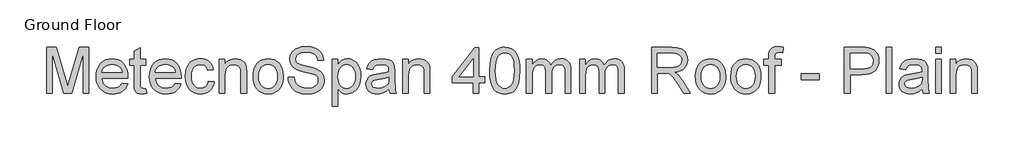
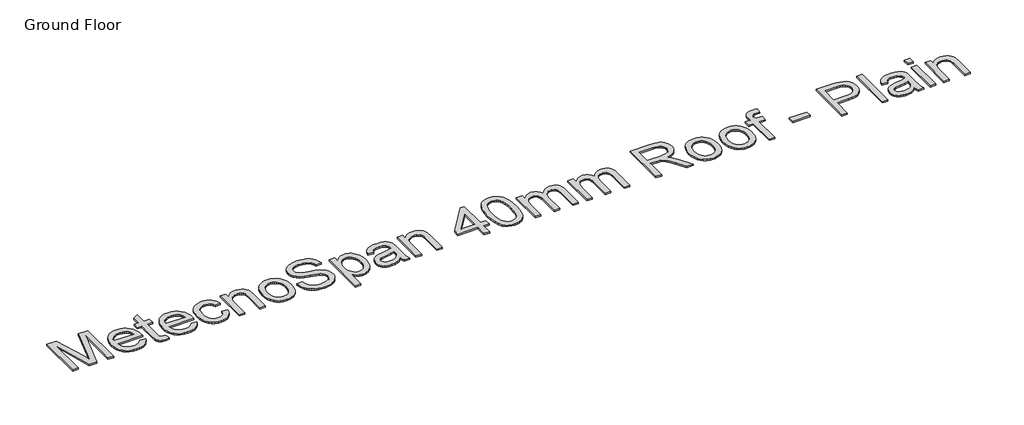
# One storey, part 2 of 14: 1 proxy.
"""IFC4 building model written with IfcOpenShell, lengths in millimetres."""

import ifcopenshell
import ifcopenshell.guid

model = None  # the IFC model being written
_history = None  # IfcOwnerHistory: only IFC2X3 demands one
_inside = {}  # id of a spatial element -> (the spatial element, [elements in it])
_under = {}  # id of a project, library or spatial element -> (it, [spatial elements below it])
_declared = {}  # id of a project -> (the project, [libraries it declares])
_typed = {}  # id of a type object -> (the type object, [elements of that type])
_made_of = {}  # id of a material, layer set ... -> (it, [elements and type objects made of it])


def new_model(schema):
    """Start an empty IFC model of exactly this schema.

    Asked for "IFC4X3", IfcOpenShell would pick the latest addendum, in which some entities
    have other attributes; the version numbers below select the first issue.
    IFC2X3 requires an IfcOwnerHistory on every rooted entity: one is made here for all.
    """
    global model, _history
    if schema == "IFC4X3":
        model = ifcopenshell.file(schema_version=(4, 3, 0, 0))
    else:
        model = ifcopenshell.file(schema=schema)
    _inside.clear()
    _under.clear()
    _declared.clear()
    _typed.clear()
    _made_of.clear()
    _history = None
    if model.schema == "IFC2X3":
        org = make("IfcOrganization", Name="unknown")
        user = make(
            "IfcPersonAndOrganization",
            ThePerson=make("IfcPerson", FamilyName="unknown"),
            TheOrganization=org,
        )
        app = make(
            "IfcApplication",
            ApplicationDeveloper=org,
            Version="unknown",
            ApplicationFullName="unknown",
            ApplicationIdentifier="unknown",
        )
        _history = make(
            "IfcOwnerHistory",
            OwningUser=user,
            OwningApplication=app,
            ChangeAction="ADDED",
            CreationDate=0,
        )
    return model


def make(cls, **values):
    """One entity of the class cls with the attributes given. An attribute that is None is left unset."""
    return model.create_entity(
        cls, **{name: value for name, value in values.items() if value is not None}
    )


def rooted(cls, **values):
    """An entity with a GlobalId (a new one), such as an element, a storey or a relation."""
    return make(cls, GlobalId=ifcopenshell.guid.new(), OwnerHistory=_history, **values)


def si_unit(unit_type, name, prefix=None):
    """IfcSIUnit, for example si_unit("LENGTHUNIT", "METRE", prefix="MILLI")."""
    return make("IfcSIUnit", UnitType=unit_type, Prefix=prefix, Name=name)


def assignment(units):
    """IfcUnitAssignment: the units of a project."""
    return None if units is None else make("IfcUnitAssignment", Units=units)


def point(xyz):
    """IfcCartesianPoint."""
    return None if xyz is None else make("IfcCartesianPoint", Coordinates=xyz)


def direction(xyz):
    """IfcDirection."""
    return None if xyz is None else make("IfcDirection", DirectionRatios=xyz)


def frame(location, z_axis=None, x_axis=None):
    """IfcAxis2Placement3D, a coordinate frame: its origin and axes. An axis left out is left unset."""
    return make(
        "IfcAxis2Placement3D",
        Location=point(location),
        Axis=direction(z_axis),
        RefDirection=direction(x_axis),
    )


def origin():
    """The frame at (0, 0, 0) with its axes left unset."""
    return frame((0.0, 0.0, 0.0))


def origin_with_axes():
    """The frame at (0, 0, 0) with the z axis (0, 0, 1) and the x axis (1, 0, 0) written out."""
    return frame((0.0, 0.0, 0.0), z_axis=(0.0, 0.0, 1.0), x_axis=(1.0, 0.0, 0.0))


def place(relative_to, where):
    """IfcLocalPlacement: puts the frame where relative to a parent placement (None: the world)."""
    return make(
        "IfcLocalPlacement", PlacementRelTo=relative_to, RelativePlacement=where
    )


def context(
    kind, dimensions, precision=None, world=None, true_north=None, identifier=None
):
    """IfcGeometricRepresentationContext, for example the 3D "Model" context."""
    return make(
        "IfcGeometricRepresentationContext",
        ContextIdentifier=identifier,
        ContextType=kind,
        CoordinateSpaceDimension=dimensions,
        Precision=precision,
        WorldCoordinateSystem=world,
        TrueNorth=true_north,
    )


def project(units=None, contexts=None):
    """IfcProject with its units and contexts."""
    return rooted(
        "IfcProject",
        Name="project",
        RepresentationContexts=contexts,
        UnitsInContext=assignment(units),
    )


def spatial(cls, under=None, at=None, **own):
    """A site, building, storey or space (cls), placed at a placement, below another one or the project."""
    s = rooted(cls, ObjectPlacement=at, **own)
    if under is not None:
        _under.setdefault(under.id(), (under, []))[1].append(s)
    return s


def polyline(points):
    """IfcPolyline through the points."""
    return make("IfcPolyline", Points=[point(p) for p in points])


def outline(outer, holes=None, kind="AREA"):
    """IfcArbitraryClosedProfileDef: a profile drawn as a closed curve; with holes, ...WithVoids."""
    if holes is None:
        return make("IfcArbitraryClosedProfileDef", ProfileType=kind, OuterCurve=outer)
    return make(
        "IfcArbitraryProfileDefWithVoids",
        ProfileType=kind,
        OuterCurve=outer,
        InnerCurves=holes,
    )


def extrude(swept, where, along, depth):
    """IfcExtrudedAreaSolid: the profile swept, set in the frame where, extruded along a direction by depth."""
    return make(
        "IfcExtrudedAreaSolid",
        SweptArea=swept,
        Position=where,
        ExtrudedDirection=direction(along),
        Depth=depth,
    )


def shape(context_of_items, identifier, shape_type, items):
    """IfcShapeRepresentation: the items that make up one representation, for example the "Body"."""
    return make(
        "IfcShapeRepresentation",
        ContextOfItems=context_of_items,
        RepresentationIdentifier=identifier,
        RepresentationType=shape_type,
        Items=items,
    )


def made_of(thing, what):
    """Note that an element or type object is made of a material, layer set ...; save() writes the relation."""
    if what is not None:
        _made_of.setdefault(what.id(), (what, []))[1].append(thing)
    return thing


def element(
    cls,
    number,
    at=None,
    inside=None,
    cuts=None,
    type_object=None,
    material=None,
    context=None,
    identifier="Body",
    shape_type=None,
    held_by="IfcProductDefinitionShape",
    body=None,
    shapes=None,
    **own,
):
    """One element of the class cls, such as IfcWall. Its Tag is "e" and its number.

    at: its placement. inside: the storey or other place that contains it. cuts: it is an
    opening in that element (IfcRelVoidsElement). A single representation is given by context,
    identifier, shape_type and body (its items); several are given by shapes. held_by: the class
    of the entity that holds the representations. save() writes the other relations.
    """
    e = rooted(cls, Tag="e%d" % number, ObjectPlacement=at, **own)
    if body is not None:
        shapes = [shape(context, identifier, shape_type, body)]
    if shapes is not None:
        e.Representation = make(held_by, Representations=shapes)
    if inside is not None:
        _inside.setdefault(inside.id(), (inside, []))[1].append(e)
    if cuts is not None:
        rooted(
            "IfcRelVoidsElement", RelatingBuildingElement=cuts, RelatedOpeningElement=e
        )
    if type_object is not None:
        _typed.setdefault(type_object.id(), (type_object, []))[1].append(e)
    return made_of(e, material)


def aggregate(whole, parts):
    """IfcRelAggregates: a whole, such as a stair, and the parts it consists of."""
    return rooted("IfcRelAggregates", RelatingObject=whole, RelatedObjects=parts)


def save(model, path):
    """Write the relations noted so far, then the file.

    IfcRelAggregates (storeys below a building ...), IfcRelContainedInSpatialStructure (elements
    in a storey), IfcRelDefinesByType, IfcRelAssociatesMaterial and IfcRelDeclares: one each for
    every whole, place, type object, material and project.
    """
    for whole, parts in _under.values():
        aggregate(whole, parts)
    for where, things in _inside.values():
        rooted(
            "IfcRelContainedInSpatialStructure",
            RelatedElements=things,
            RelatingStructure=where,
        )
    for kind, things in _typed.values():
        rooted("IfcRelDefinesByType", RelatedObjects=things, RelatingType=kind)
    for what, things in _made_of.values():
        rooted("IfcRelAssociatesMaterial", RelatedObjects=things, RelatingMaterial=what)
    for by, libraries in _declared.values():
        rooted("IfcRelDeclares", RelatingContext=by, RelatedDefinitions=libraries)
    model.write(path)


model = new_model("IFC4")

# Units and contexts
model_context = context("Model", 3, world=origin())
ifc_project = project(units=[si_unit("LENGTHUNIT", "METRE", prefix="MILLI")], contexts=[model_context])

# Site, building, storey
site = spatial("IfcSite", under=ifc_project)
building = spatial("IfcBuilding", under=site)
storey = spatial("IfcBuildingStorey", under=building, Name="Ground Floor", Elevation=0.0)

# Proxy
placement = place(None, origin())
element("IfcBuildingElementProxy", 1, Name="600mm Arial", ObjectType="600mm Arial", at=placement, inside=storey, context=model_context, shape_type="SweptSolid", body=[
    extrude(outline(polyline([(-20586.6111679, -15259.7789852), (-20586.6111679, -14657.0411243), (-20456.9695528, -14657.0411243), (-20333.655508, -15081.8712524), (-20308.7866852, -15170.6043896), (-20281.8577231, -15074.5136125), (-20160.6038175, -14657.0411243), (-20030.9622024, -14657.0411243), (-20030.9622024, -15259.7789852), (-20106.304435, -15259.7789852), (-20106.304435, -14732.3833569), (-20257.7246642, -15259.7789852), (-20359.8487061, -15259.7789852), (-20511.2689353, -14732.3833569), (-20511.2689353, -15259.7789852), (-20586.6111679, -15259.7789852)])), origin_with_axes(), (0.0, 0.0, 1.0), 20.0),
    extrude(outline(polyline([(-19598.6272817, -15127.9300782), (-19524.756577, -15137.3478572), (-19536.082744, -15166.9347667), (-19551.3728394, -15193.0084031), (-19570.6268633, -15215.5687665), (-19593.8448157, -15234.6158568), (-19620.7875733, -15249.7450038), (-19651.2160129, -15260.5515374), (-19685.1301343, -15267.0354576), (-19722.5299376, -15269.1967643), (-19769.2785422, -15265.4673606), (-19810.9319811, -15254.2791494), (-19847.4902544, -15235.6321308), (-19878.953362, -15209.5263047), (-19904.2544462, -15176.6882381), (-19922.3266492, -15137.8444979), (-19933.169971, -15092.9950842), (-19936.7844116, -15042.1399969), (-19933.1331828, -14989.5604627), (-19922.1794964, -14943.2165284), (-19903.9233524, -14903.1081939), (-19878.3647508, -14869.2354592), (-19846.9844166, -14842.3248912), (-19811.2630749, -14823.103057), (-19771.2007256, -14811.5699564), (-19726.7973688, -14807.7255896), (-19683.8241532, -14811.5607594), (-19644.962019, -14823.0662688), (-19610.210966, -14842.2421178), (-19579.5709943, -14869.0883064), (-19554.5596172, -14902.8874647), (-19536.6943478, -14942.9222228), (-19525.9751861, -14989.1925807), (-19522.4021323, -15041.6985385), (-19522.8435907, -15062.0056246), (-19861.442179, -15062.0056246), (-19857.0781789, -15092.0707807), (-19848.4007623, -15118.4019345), (-19835.4099293, -15140.999086), (-19818.10568, -15159.8622353), (-19797.4445074, -15174.733865), (-19774.3829049, -15185.3564576), (-19748.9208723, -15191.7300132), (-19721.0584097, -15193.8545317), (-19680.9592722, -15189.9181943), (-19647.187705, -15178.1091823), (-19619.7437082, -15157.6917316), (-19598.6272817, -15127.9300782)]), holes=[polyline([(-19861.442179, -14986.663392), (-19597.7443649, -14986.663392), (-19607.9346961, -14946.8585601), (-19616.6994847, -14931.2051812), (-19627.9106885, -14918.3844937), (-19648.4568979, -14902.9334499), (-19671.8357987, -14891.8969901), (-19698.0473909, -14885.2751141), (-19727.0916744, -14883.0678222), (-19753.5837766, -14884.8290572), (-19777.8777838, -14890.1127624), (-19799.9736962, -14898.9189376), (-19819.8715136, -14911.247583), (-19836.5687576, -14926.5284814), (-19849.0629499, -14944.1914157), (-19857.3540903, -14964.2363859), (-19861.442179, -14986.663392)])]), origin_with_axes(), (0.0, 0.0, 1.0), 20.0),
    extrude(outline(polyline([(-19286.9576554, -15196.9447405), (-19277.5398763, -15261.9862772), (-19333.8993979, -15269.1967643), (-19370.0621981, -15266.0697674), (-19397.0279483, -15256.6887765), (-19416.0842357, -15242.2310141), (-19428.5186471, -15223.8737025), (-19435.3612522, -15192.3462155), (-19437.6421206, -15138.3779268), (-19437.6421206, -14892.4856012), (-19494.148795, -14892.4856012), (-19494.148795, -14817.1433686), (-19437.6421206, -14817.1433686), (-19437.6421206, -14709.5746732), (-19362.299888, -14665.281681), (-19362.299888, -14817.1433686), (-19286.9576554, -14817.1433686), (-19286.9576554, -14892.4856012), (-19362.299888, -14892.4856012), (-19362.299888, -15136.1706349), (-19358.3267624, -15175.0189735), (-19345.4508926, -15188.7777602), (-19334.5799796, -15192.5853388), (-19319.7727293, -15193.8545317), (-19286.9576554, -15196.9447405)])), origin_with_axes(), (0.0, 0.0, 1.0), 20.0),
    extrude(outline(polyline([(-18901.71163, -15127.9300782), (-18827.8409254, -15137.3478572), (-18839.1670923, -15166.9347667), (-18854.4571877, -15193.0084031), (-18873.7112116, -15215.5687665), (-18896.9291641, -15234.6158568), (-18923.8719217, -15249.7450038), (-18954.3003612, -15260.5515374), (-18988.2144826, -15267.0354576), (-19025.614286, -15269.1967643), (-19072.3628905, -15265.4673606), (-19114.0163294, -15254.2791494), (-19150.5746027, -15235.6321308), (-19182.0377103, -15209.5263047), (-19207.3387945, -15176.6882381), (-19225.4109976, -15137.8444979), (-19236.2543194, -15092.9950842), (-19239.86876, -15042.1399969), (-19236.2175312, -14989.5604627), (-19225.2638448, -14943.2165284), (-19207.0077007, -14903.1081939), (-19181.4490991, -14869.2354592), (-19150.0687649, -14842.3248912), (-19114.3474232, -14823.103057), (-19074.2850739, -14811.5699564), (-19029.8817171, -14807.7255896), (-18986.9085016, -14811.5607594), (-18948.0463673, -14823.0662688), (-18913.2953143, -14842.2421178), (-18882.6553427, -14869.0883064), (-18857.6439655, -14902.8874647), (-18839.7786961, -14942.9222228), (-18829.0595345, -14989.1925807), (-18825.4864806, -15041.6985385), (-18825.927939, -15062.0056246), (-19164.5265274, -15062.0056246), (-19160.1625272, -15092.0707807), (-19151.4851106, -15118.4019345), (-19138.4942777, -15140.999086), (-19121.1900283, -15159.8622353), (-19100.5288558, -15174.733865), (-19077.4672532, -15185.3564576), (-19052.0052206, -15191.7300132), (-19024.142758, -15193.8545317), (-18984.0436205, -15189.9181943), (-18950.2720534, -15178.1091823), (-18922.8280565, -15157.6917316), (-18901.71163, -15127.9300782)]), holes=[polyline([(-19164.5265274, -14986.663392), (-18900.8287132, -14986.663392), (-18911.0190445, -14946.8585601), (-18919.783833, -14931.2051812), (-18930.9950368, -14918.3844937), (-18951.5412462, -14902.9334499), (-18974.920147, -14891.8969901), (-19001.1317392, -14885.2751141), (-19030.1760227, -14883.0678222), (-19056.6681249, -14884.8290572), (-19080.9621322, -14890.1127624), (-19103.0580445, -14898.9189376), (-19122.9558619, -14911.247583), (-19139.653106, -14926.5284814), (-19152.1472982, -14944.1914157), (-19160.4384387, -14964.2363859), (-19164.5265274, -14986.663392)])]), origin_with_axes(), (0.0, 0.0, 1.0), 20.0),
    extrude(outline(polyline([(-18467.6108757, -15099.6767409), (-18392.2686431, -15109.09452), (-18400.4632145, -15144.6457163), (-18413.274705, -15176.1042254), (-18430.7031145, -15203.4700473), (-18452.7484431, -15226.7431821), (-18478.4817887, -15245.3166243), (-18506.9742492, -15258.5833687), (-18538.2258247, -15266.5434154), (-18572.2365151, -15269.1967643), (-18614.4923608, -15265.4949517), (-18652.3796078, -15254.389514), (-18685.8982561, -15235.8804511), (-18715.0483056, -15209.9677631), (-18738.6433371, -15177.1388935), (-18755.496931, -15137.8812861), (-18765.6090874, -15092.1949409), (-18768.9798061, -15040.0798577), (-18763.2224529, -14973.0333641), (-18756.0257614, -14942.862442), (-18745.9503932, -14914.926403), (-18732.9273706, -14889.7862671), (-18716.8877156, -14868.0030545), (-18697.8314283, -14849.576765), (-18675.7585086, -14834.5073988), (-18651.6668364, -14822.7903573), (-18626.5542917, -14814.4210419), (-18600.4208745, -14809.3994526), (-18573.2665847, -14807.7255896), (-18539.8399069, -14810.024852), (-18509.6046054, -14816.9226394), (-18482.5606803, -14828.4189518), (-18458.7081314, -14844.5137891), (-18438.4516291, -14864.8392693), (-18422.1958434, -14889.0275105), (-18409.9407744, -14917.0785126), (-18401.6864222, -14948.9922757), (-18477.0286548, -14958.4100548), (-18490.6954709, -14925.5397985), (-18511.9774443, -14901.9769567), (-18539.6973526, -14887.7951058), (-18572.6779735, -14883.0678222), (-18598.2779619, -14885.3946758), (-18621.3671556, -14892.3752367), (-18641.9455547, -14904.0095047), (-18660.0131592, -14920.2974801), (-18674.7238405, -14941.6162417), (-18685.2314699, -14968.3428687), (-18691.5360476, -15000.4773609), (-18693.6375735, -15038.0197185), (-18691.5820329, -15076.1276947), (-18685.4154109, -15108.6346675), (-18675.1377077, -15135.5406369), (-18660.7489232, -15156.845603), (-18643.0400036, -15173.0370093), (-18622.8018954, -15184.6022995), (-18600.0345984, -15191.5414737), (-18574.7381127, -15193.8545317), (-18535.7242271, -15188.0787844), (-18518.8522391, -15180.8591002), (-18503.7368876, -15170.7515424), (-18490.801237, -15157.6457463), (-18480.4683514, -15141.4313474), (-18472.738231, -15122.1083456), (-18467.6108757, -15099.6767409)])), origin_with_axes(), (0.0, 0.0, 1.0), 20.0),
    extrude(outline(polyline([(-18326.3441895, -15259.7789852), (-18326.3441895, -14817.1433686), (-18251.0019569, -14817.1433686), (-18251.0019569, -14878.9475438), (-18224.827153, -14847.7879388), (-18193.3916365, -14825.5310781), (-18156.6954075, -14812.1769617), (-18114.7384659, -14807.7255896), (-18077.6007785, -14811.312439), (-18043.5900881, -14822.0729874), (-18015.2263862, -14838.6644654), (-17995.0296647, -14859.7441037), (-17981.3260604, -14885.25672), (-17972.4417102, -14915.1471322), (-17968.4685846, -14987.9877672), (-17968.4685846, -15259.7789852), (-18043.8108173, -15259.7789852), (-18043.8108173, -14998.1413103), (-18045.981321, -14959.182607), (-18052.4928323, -14931.4810927), (-18064.5041795, -14911.6338591), (-18083.1741907, -14896.2379976), (-18107.1049145, -14886.360366), (-18134.8983993, -14883.0678222), (-18157.7760608, -14884.9164292), (-18179.0258446, -14890.4622503), (-18198.6477505, -14899.7052854), (-18216.6417786, -14912.6455346), (-18231.6743566, -14930.7545258), (-18242.4119123, -14955.503787), (-18248.8544458, -14986.8933183), (-18251.0019569, -15024.9231195), (-18251.0019569, -15259.7789852), (-18326.3441895, -15259.7789852)])), origin_with_axes(), (0.0, 0.0, 1.0), 20.0),
    extrude(outline(polyline([(-17883.7085729, -15038.4611769), (-17879.6342799, -14981.135965), (-17867.4114006, -14931.7386101), (-17847.0399351, -14890.2691122), (-17818.5198834, -14856.7274713), (-17789.8066937, -14835.289148), (-17758.1136598, -14819.97606), (-17723.4407818, -14810.7882072), (-17685.7880595, -14807.7255896), (-17644.2219926, -14811.4549933), (-17606.6382483, -14822.6432045), (-17573.0368265, -14841.2902231), (-17543.4177274, -14867.3960492), (-17519.2432818, -14900.0777659), (-17501.9758207, -14938.4524565), (-17491.615344, -14982.520121), (-17488.1618517, -15032.2807594), (-17489.688562, -15072.6098231), (-17494.2686929, -15108.3955442), (-17501.9022443, -15139.6379227), (-17512.5892162, -15166.3369585), (-17526.1962515, -15189.398561), (-17542.5899929, -15209.7286398), (-17561.7704404, -15227.3271947), (-17583.7375941, -15242.1942259), (-17607.6361282, -15254.0078364), (-17632.6107171, -15262.4461297), (-17658.6613609, -15267.5091057), (-17685.7880595, -15269.1967643), (-17727.9611318, -15265.4811562), (-17765.894364, -15254.3343317), (-17799.5877562, -15235.7562909), (-17829.0413085, -15209.7470339), (-17852.9582367, -15176.7480189), (-17870.0417568, -15137.2007044), (-17880.2918689, -15091.1050904), (-17883.7085729, -15038.4611769)]), holes=[polyline([(-17808.3663403, -15038.3140241), (-17806.1866395, -15074.8585018), (-17799.6475371, -15106.5009519), (-17788.7490329, -15133.2413745), (-17773.4911272, -15155.0797694), (-17754.9314805, -15172.0437279), (-17734.1277537, -15184.1608411), (-17711.0799467, -15191.4311091), (-17685.7880595, -15193.8545317), (-17660.6249311, -15191.4173135), (-17637.6690946, -15184.1056588), (-17616.92055, -15171.9195677), (-17598.3792975, -15154.8590402), (-17583.1213917, -15132.8045146), (-17572.2228876, -15105.6364293), (-17565.6837852, -15073.3547842), (-17563.5040843, -15035.9595794), (-17565.6975807, -15000.57393), (-17572.2780699, -14969.7592143), (-17583.2455519, -14943.5154325), (-17598.6000267, -14921.8425845), (-17617.2102571, -14904.878626), (-17637.9450061, -14892.7615127), (-17660.8042735, -14885.4912448), (-17685.7880595, -14883.0678222), (-17711.0799467, -14885.4820478), (-17734.1277537, -14892.7247245), (-17754.9314805, -14904.7958525), (-17773.4911272, -14921.6954317), (-17788.7490329, -14943.4694473), (-17799.6475371, -14970.1638845), (-17806.1866395, -15001.7787435), (-17808.3663403, -15038.3140241)])]), origin_with_axes(), (0.0, 0.0, 1.0), 20.0),
    extrude(outline(polyline([(-17422.2373982, -15052.5878455), (-17346.8951656, -15052.5878455), (-17338.2499387, -15094.3976343), (-17322.6149539, -15128.0036546), (-17298.2243776, -15154.6750992), (-17263.3123763, -15175.6811611), (-17220.6380648, -15189.3111891), (-17172.9605583, -15193.8545317), (-17130.9852226, -15190.414835), (-17094.2338113, -15180.0957451), (-17064.4537638, -15163.7617845), (-17043.3925196, -15142.277476), (-17030.8661376, -15117.6109882), (-17026.690677, -15091.7304898), (-17029.8176739, -15066.5121791), (-17039.1986648, -15044.7151709), (-17058.2549522, -15026.118736), (-17090.4078385, -15010.5021453), (-17200.1102495, -14981.7337733), (-17272.1231501, -14962.69588), (-17318.20037, -14944.5776918), (-17355.7059394, -14919.2306223), (-17382.2854135, -14888.5124757), (-17398.1227334, -14853.0854396), (-17403.40184, -14813.6117015), (-17401.7693637, -14791.1754983), (-17396.8719346, -14769.4842562), (-17388.7095529, -14748.5379751), (-17377.2822184, -14728.336655), (-17362.7186899, -14709.7034319), (-17345.1477261, -14693.4614419), (-17324.569327, -14679.6106847), (-17300.9834926, -14668.1511606), (-17247.9716971, -14652.7552991), (-17189.2945189, -14647.6233453), (-17125.7245101, -14652.9944224), (-17070.1007524, -14669.1076538), (-17045.7653584, -14681.1098039), (-17024.4098086, -14695.6319456), (-17006.034103, -14712.6740791), (-16990.6382415, -14732.2362041), (-16978.3417858, -14753.7481038), (-16969.2642975, -14776.639561), (-16963.4057768, -14800.9105756), (-16960.7662234, -14826.5611477), (-17036.1084561, -14826.5611477), (-17041.1484394, -14802.5200593), (-17049.9408191, -14781.6059679), (-17062.4855951, -14763.8188734), (-17078.7827675, -14749.1587759), (-17099.1358389, -14737.6992518), (-17123.8483119, -14729.5138774), (-17152.9201866, -14724.6026527), (-17186.3514629, -14722.9655779), (-17220.849597, -14724.5842587), (-17250.3261419, -14729.440301), (-17274.7810975, -14737.5337049), (-17294.2144639, -14748.8644703), (-17309.0217142, -14762.4853012), (-17319.5983215, -14777.4489014), (-17325.944286, -14793.7552708), (-17328.0596074, -14811.4044095), (-17326.5604883, -14826.5887389), (-17322.0631309, -14840.3567225), (-17314.5675353, -14852.7083605), (-17304.0737013, -14863.6436528), (-17287.5557998, -14873.999531), (-17261.5465427, -14884.4657738), (-17181.0539622, -14905.7293531), (-17097.9862077, -14925.9260746), (-17047.7335271, -14943.5476222), (-17004.7833042, -14970.8812544), (-16988.1780306, -14986.9485006), (-16974.8193157, -15004.6160334), (-16964.5508095, -15023.7918824), (-16957.2161622, -15044.3840771), (-16951.3484444, -15089.8175035), (-16953.036103, -15113.3849438), (-16958.099079, -15136.2626054), (-16966.5373722, -15158.4504882), (-16978.3509828, -15179.9485923), (-16993.3329771, -15199.9245846), (-17011.2764214, -15217.5461322), (-17032.1813158, -15232.813235), (-17056.0476602, -15245.725893), (-17082.1810774, -15255.9943992), (-17109.8871902, -15263.3290465), (-17170.0175023, -15269.1967643), (-17208.5577398, -15267.6148717), (-17243.8330246, -15262.869194), (-17275.8433567, -15254.9597311), (-17304.5887361, -15243.886483), (-17330.2439068, -15229.6310557), (-17352.9836126, -15212.1750551), (-17372.8078536, -15191.518481), (-17389.7166298, -15167.6613336), (-17403.3374607, -15141.3761651), (-17413.2978657, -15113.4355276), (-17419.5978449, -15083.839421), (-17422.2373982, -15052.5878455)])), origin_with_axes(), (0.0, 0.0, 1.0), 20.0),
    extrude(outline(polyline([(-16847.7528745, -15429.2990086), (-16847.7528745, -14817.1433686), (-16772.4106419, -14817.1433686), (-16772.4106419, -14891.0140733), (-16747.8361246, -14854.5753616), (-16720.3185514, -14828.5477105), (-16688.2392414, -14812.9311198), (-16649.9795139, -14807.7255896), (-16623.7035424, -14809.5466054), (-16599.0278576, -14815.0096531), (-16575.9524594, -14824.1147324), (-16554.477348, -14836.8618436), (-16535.0715727, -14852.9198927), (-16518.2041833, -14871.9577859), (-16503.8751795, -14893.9755233), (-16492.0845616, -14918.9731049), (-16476.302424, -14974.486498), (-16471.0417115, -15035.0766626), (-16476.9830057, -15099.511194), (-16484.4096235, -15129.1762784), (-16494.8068884, -15157.1399086), (-16508.0322461, -15182.670919), (-16523.9431424, -15205.0381444), (-16542.5395772, -15224.2415845), (-16563.8215507, -15240.2812395), (-16586.7451975, -15252.9317816), (-16610.2666525, -15261.9678831), (-16634.3859159, -15267.389544), (-16659.1029874, -15269.1967643), (-16693.7390773, -15264.3591161), (-16724.6595589, -15249.8461714), (-16751.1286685, -15227.9387986), (-16772.4106419, -15200.917866), (-16772.4106419, -15429.2990086), (-16847.7528745, -15429.2990086)]), holes=[polyline([(-16772.4106419, -15041.9928441), (-16770.3734954, -15078.302797), (-16764.2620557, -15109.5359784), (-16754.076323, -15135.6923883), (-16739.8162971, -15156.7720266), (-16722.6500035, -15172.9956226), (-16703.7454675, -15184.5839054), (-16683.1026891, -15191.5368751), (-16660.7216682, -15193.8545317), (-16638.0187506, -15191.4541017), (-16616.9988931, -15184.2528116), (-16597.6620957, -15172.2506615), (-16580.0083584, -15155.4476514), (-16565.2976772, -15133.6046579), (-16554.7900477, -15106.4825578), (-16548.48547, -15074.0813511), (-16546.3839441, -15036.4010378), (-16548.4348862, -15000.4037845), (-16554.5877126, -14969.2257854), (-16564.8424232, -14942.8670405), (-16579.1990181, -14921.3275497), (-16596.4066984, -14904.5889189), (-16615.2146654, -14892.632754), (-16635.6229191, -14885.4590551), (-16657.6314594, -14883.0678222), (-16679.5710219, -14885.6108065), (-16700.2138004, -14893.2397593), (-16719.5597948, -14905.9546808), (-16737.6090052, -14923.7555708), (-16752.8347213, -14946.4033062), (-16763.7102327, -14973.6587635), (-16770.2355396, -15005.5219428), (-16772.4106419, -15041.9928441)])]), origin_with_axes(), (0.0, 0.0, 1.0), 20.0),
    extrude(outline(polyline([(-16103.7483275, -15203.2723108), (-16139.7455807, -15234.1376102), (-16176.8096917, -15254.3343317), (-16215.7867891, -15265.4811562), (-16257.5230015, -15269.1967643), (-16291.0692409, -15266.9618812), (-16320.4860049, -15260.2572318), (-16345.7732936, -15249.0828162), (-16366.9311068, -15233.4386344), (-16383.6375479, -15214.3179677), (-16395.5707202, -15192.7140975), (-16402.7306235, -15168.6270239), (-16405.1172579, -15142.0567468), (-16401.5120144, -15110.8235654), (-16390.6962837, -15082.4598636), (-16374.0128352, -15058.1796519), (-16352.8044382, -15039.1969409), (-16327.880433, -15024.8495431), (-16300.0501601, -15014.4752708), (-16234.8614706, -15003.1445054), (-16157.8269808, -14991.2251288), (-16104.1897859, -14977.2456129), (-16103.7483275, -14960.470194), (-16108.9354636, -14926.8457796), (-16115.4193838, -14914.3929741), (-16124.496872, -14904.8464363), (-16140.1870391, -14895.3182926), (-16159.2985088, -14888.5124757), (-16207.7853557, -14883.0678222), (-16252.6669591, -14886.6914598), (-16284.0105051, -14897.5623728), (-16305.384449, -14917.6671238), (-16320.3572462, -14948.9922757), (-16395.6994789, -14939.5744966), (-16382.6212739, -14898.3717132), (-16363.1051341, -14865.9980976), (-16335.3300434, -14841.2396393), (-16297.4749861, -14822.8823278), (-16251.1770371, -14811.5147741), (-16198.073271, -14807.7255896), (-16147.1400088, -14811.0733157), (-16106.7649598, -14821.1164942), (-16076.3227247, -14836.2180501), (-16055.1879041, -14854.7409085), (-16041.1716001, -14877.6415627), (-16032.0849148, -14905.8765059), (-16028.4060949, -14971.8009594), (-16028.4060949, -15065.5372918), (-16024.5801221, -15196.4297057), (-16018.9147394, -15228.7849271), (-16009.5705367, -15259.7789852), (-16084.9127693, -15259.7789852), (-16096.9792988, -15233.5857872), (-16103.7483275, -15203.2723108)]), holes=[polyline([(-16103.7483275, -15052.5878455), (-16154.36889, -15065.1326216), (-16225.2965387, -15075.6908348), (-16290.1173462, -15087.9045171), (-16306.9847357, -15096.2554384), (-16319.4743295, -15107.7701448), (-16327.1998514, -15121.5657196), (-16329.7750253, -15136.759246), (-16324.1648249, -15159.1632596), (-16307.3342236, -15177.5205711), (-16279.6511035, -15189.7710416), (-16241.4833465, -15193.8545317), (-16201.016327, -15189.3479773), (-16165.2581971, -15175.8283139), (-16136.2690959, -15155.9075039), (-16116.1091625, -15132.1975093), (-16107.16963, -15107.7701448), (-16104.1897859, -15073.9250013), (-16103.7483275, -15052.5878455)])]), origin_with_axes(), (0.0, 0.0, 1.0), 20.0),
    extrude(outline(polyline([(-15924.810525, -15259.7789852), (-15924.810525, -14817.1433686), (-15849.4682924, -14817.1433686), (-15849.4682924, -14878.9475438), (-15823.2934885, -14847.7879388), (-15791.857972, -14825.5310781), (-15755.161743, -14812.1769617), (-15713.2048014, -14807.7255896), (-15676.067114, -14811.312439), (-15642.0564235, -14822.0729874), (-15613.6927217, -14838.6644654), (-15593.4960002, -14859.7441037), (-15579.7923959, -14885.25672), (-15570.9080457, -14915.1471322), (-15566.9349201, -14987.9877672), (-15566.9349201, -15259.7789852), (-15642.2771527, -15259.7789852), (-15642.2771527, -14998.1413103), (-15644.4476565, -14959.182607), (-15650.9591678, -14931.4810927), (-15662.970515, -14911.6338591), (-15681.6405262, -14896.2379976), (-15705.57125, -14886.360366), (-15733.3647347, -14883.0678222), (-15756.2423963, -14884.9164292), (-15777.4921801, -14890.4622503), (-15797.114086, -14899.7052854), (-15815.1081141, -14912.6455346), (-15830.1406921, -14930.7545258), (-15840.8782478, -14955.503787), (-15847.3207813, -14986.8933183), (-15849.4682924, -15024.9231195), (-15849.4682924, -15259.7789852), (-15924.810525, -15259.7789852)])), origin_with_axes(), (0.0, 0.0, 1.0), 20.0),
    extrude(outline(polyline([(-15001.8681755, -15259.7789852), (-15001.8681755, -15118.5122991), (-15274.9837688, -15118.5122991), (-15274.9837688, -15043.1700665), (-14983.0326174, -14666.4589034), (-14926.5259429, -14666.4589034), (-14926.5259429, -15043.1700665), (-14851.1837103, -15043.1700665), (-14851.1837103, -15118.5122991), (-14926.5259429, -15118.5122991), (-14926.5259429, -15259.7789852), (-15001.8681755, -15259.7789852)]), holes=[polyline([(-15001.8681755, -15043.1700665), (-15001.8681755, -14810.3743399), (-15182.277506, -15043.1700665), (-15001.8681755, -15043.1700665)])]), origin_with_axes(), (0.0, 0.0, 1.0), 20.0),
    extrude(outline(polyline([(-14785.2592568, -14963.2660971), (-14779.7226327, -14866.7890439), (-14772.8018527, -14825.8759675), (-14763.1127607, -14789.8465246), (-14750.6967433, -14758.4064096), (-14735.5951874, -14731.2613169), (-14717.808093, -14708.4112464), (-14697.3354599, -14689.8561983), (-14674.1083105, -14675.4996034), (-14648.0576667, -14665.2448928), (-14619.1835286, -14659.0920665), (-14587.4858962, -14657.0411243), (-14541.0591884, -14661.8971667), (-14499.4885229, -14676.4652937), (-14464.7236744, -14700.1752883), (-14438.7144173, -14732.4569333), (-14419.0695188, -14773.0343174), (-14403.3977458, -14821.631529), (-14393.1338381, -14883.3437337), (-14389.7125356, -14963.2660971), (-14395.1939773, -15059.1913274), (-14402.0457794, -15099.966448), (-14411.6383025, -15135.9499057), (-14423.9577508, -15167.4038162), (-14438.9903288, -15194.5902957), (-14456.7360366, -15217.509344), (-14477.194874, -15236.1609611), (-14500.4496146, -15250.614125), (-14526.5830319, -15260.9378135), (-14555.5951257, -15267.1320266), (-14587.4858962, -15269.1967643), (-14628.9829852, -15265.6099149), (-14665.7711847, -15254.8493665), (-14697.8504947, -15236.9151192), (-14725.2209152, -15211.8071731), (-14751.4876896, -15166.4197319), (-14770.2496714, -15109.8670722), (-14781.5068604, -15042.1491939), (-14785.2592568, -14963.2660971)]), holes=[polyline([(-14709.9170242, -14963.1189443), (-14707.7097322, -15028.615735), (-14701.0878563, -15081.6321291), (-14690.0513964, -15122.1681264), (-14674.6003526, -15150.2237271), (-14655.9119473, -15169.3122041), (-14635.1634027, -15182.9468305), (-14612.354719, -15191.1276064), (-14587.4858962, -15193.8545317), (-14562.6170733, -15191.1184094), (-14539.8083896, -15182.9100423), (-14519.0598451, -15169.2294306), (-14500.3714397, -15150.0765743), (-14484.9203959, -15121.9749884), (-14473.8839361, -15081.4481881), (-14467.2620601, -15028.4961734), (-14465.0547682, -14963.1189443), (-14467.1884837, -14899.3557975), (-14473.5896305, -14847.272904), (-14484.2582083, -14806.8702639), (-14499.1942173, -14778.1478771), (-14517.569923, -14758.1258996), (-14538.5575908, -14743.824487), (-14562.1572208, -14735.2436395), (-14588.368813, -14732.3833569), (-14613.1088771, -14734.9033486), (-14635.5312847, -14742.4633236), (-14655.6360358, -14755.063282), (-14673.4231302, -14772.7032236), (-14689.3892088, -14803.9731932), (-14700.7935507, -14846.1324699), (-14707.6361558, -14899.1810536), (-14709.9170242, -14963.1189443)])]), origin_with_axes(), (0.0, 0.0, 1.0), 20.0),
    extrude(outline(polyline([(-14304.9525239, -15259.7789852), (-14304.9525239, -14817.1433686), (-14229.6102913, -14817.1433686), (-14229.6102913, -14889.9840037), (-14206.9487604, -14856.5251362), (-14177.8125063, -14830.3135441), (-14143.1948106, -14813.3725782), (-14104.0889545, -14807.7255896), (-14062.1871953, -14813.4829428), (-14044.3541155, -14820.6796343), (-14028.5995691, -14830.7550025), (-14003.510017, -14858.4013344), (-13987.10248, -14895.2815044), (-13959.6400891, -14856.9757917), (-13928.3149372, -14829.6145683), (-13893.1270244, -14813.1978342), (-13854.0763506, -14807.7255896), (-13823.9146255, -14810.0018594), (-13797.4409174, -14816.8306689), (-13774.6552263, -14828.2120182), (-13755.5575523, -14844.1459071), (-13740.4605949, -14864.8162767), (-13729.6770539, -14890.407068), (-13723.2069293, -14920.918281), (-13721.0502211, -14956.3499156), (-13721.0502211, -15259.7789852), (-13796.3924537, -15259.7789852), (-13796.3924537, -14988.7235312), (-13798.1398932, -14951.1443854), (-13803.3822116, -14925.81571), (-13813.2046609, -14908.4700739), (-13828.6924929, -14894.840046), (-13848.613303, -14886.0108781), (-13871.7346863, -14883.0678222), (-13893.0856376, -14884.9532174), (-13912.5511937, -14890.6094031), (-13930.1313546, -14900.0363792), (-13945.8261202, -14913.2341458), (-13958.7341797, -14930.5889789), (-13967.9542222, -14952.4871547), (-13973.4862477, -14978.9286731), (-13975.3302562, -15009.9135341), (-13975.3302562, -15259.7789852), (-14050.6724888, -15259.7789852), (-14050.6724888, -14980.3358217), (-14055.0318904, -14937.7350867), (-14060.4811425, -14921.01485), (-14068.1100954, -14907.3480339), (-14078.2222517, -14896.7254412), (-14091.1211142, -14889.1378751), (-14106.8066827, -14884.5853354), (-14125.2789574, -14883.0678222), (-14154.3048468, -14887.1145241), (-14181.0498679, -14899.25463), (-14203.1227876, -14919.1938341), (-14218.132373, -14946.6378309), (-14226.7408117, -14984.7136174), (-14229.6102913, -15036.5481906), (-14229.6102913, -15259.7789852), (-14304.9525239, -15259.7789852)])), origin_with_axes(), (0.0, 0.0, 1.0), 20.0),
    extrude(outline(polyline([(-13608.0368722, -15259.7789852), (-13608.0368722, -14817.1433686), (-13532.6946396, -14817.1433686), (-13532.6946396, -14889.9840037), (-13510.0331087, -14856.5251362), (-13480.8968547, -14830.3135441), (-13446.2791589, -14813.3725782), (-13407.1733028, -14807.7255896), (-13365.2715436, -14813.4829428), (-13347.4384639, -14820.6796343), (-13331.6839174, -14830.7550025), (-13306.5943654, -14858.4013344), (-13290.1868284, -14895.2815044), (-13262.7244374, -14856.9757917), (-13231.3992855, -14829.6145683), (-13196.2113727, -14813.1978342), (-13157.1606989, -14807.7255896), (-13126.9989738, -14810.0018594), (-13100.5252658, -14816.8306689), (-13077.7395747, -14828.2120182), (-13058.6419006, -14844.1459071), (-13043.5449432, -14864.8162767), (-13032.7614022, -14890.407068), (-13026.2912777, -14920.918281), (-13024.1345695, -14956.3499156), (-13024.1345695, -15259.7789852), (-13099.4768021, -15259.7789852), (-13099.4768021, -14988.7235312), (-13101.2242416, -14951.1443854), (-13106.46656, -14925.81571), (-13116.2890093, -14908.4700739), (-13131.7768413, -14894.840046), (-13151.6976513, -14886.0108781), (-13174.8190347, -14883.0678222), (-13196.169986, -14884.9532174), (-13215.6355421, -14890.6094031), (-13233.2157029, -14900.0363792), (-13248.9104685, -14913.2341458), (-13261.818528, -14930.5889789), (-13271.0385705, -14952.4871547), (-13276.570596, -14978.9286731), (-13278.4146045, -15009.9135341), (-13278.4146045, -15259.7789852), (-13353.7568371, -15259.7789852), (-13353.7568371, -14980.3358217), (-13358.1162388, -14937.7350867), (-13363.5654908, -14921.01485), (-13371.1944437, -14907.3480339), (-13381.3066001, -14896.7254412), (-13394.2054625, -14889.1378751), (-13409.8910311, -14884.5853354), (-13428.3633058, -14883.0678222), (-13457.3891952, -14887.1145241), (-13484.1342162, -14899.25463), (-13506.2071359, -14919.1938341), (-13521.2167213, -14946.6378309), (-13529.82516, -14984.7136174), (-13532.6946396, -15036.5481906), (-13532.6946396, -15259.7789852), (-13608.0368722, -15259.7789852)])), origin_with_axes(), (0.0, 0.0, 1.0), 20.0),
    extrude(outline(polyline([(-12666.2589646, -15259.7789852), (-12666.2589646, -14657.0411243), (-12406.534276, -14657.0411243), (-12336.7286674, -14661.1062204), (-12285.9425579, -14673.3015085), (-12266.3436446, -14682.9951991), (-12248.8232646, -14695.8158866), (-12233.3814179, -14711.7635711), (-12220.0181044, -14730.8382526), (-12209.2345634, -14752.0144599), (-12201.5320341, -14774.2667221), (-12196.9105166, -14797.5950391), (-12195.3700107, -14821.999411), (-12197.9221921, -14852.9566809), (-12205.5787361, -14881.375565), (-12218.3396428, -14907.2560634), (-12236.2049122, -14930.5981759), (-12259.4044705, -14950.6569417), (-12288.168244, -14966.6873997), (-12322.4962327, -14978.6895498), (-12362.3884365, -14986.663392), (-12337.5564019, -15002.886988), (-12319.5669723, -15018.8898548), (-12288.7016729, -15055.4941133), (-12258.4985611, -15096.4393794), (-12157.9932, -15259.7789852), (-12245.5491149, -15259.7789852), (-12323.9815562, -15134.8462597), (-12380.6353835, -15052.1463872), (-12401.6966277, -15028.0317224), (-12420.4402154, -15013.0773193), (-12456.2719217, -14998.7299215), (-12499.9763027, -14996.0811711), (-12590.9167319, -14996.0811711), (-12590.9167319, -15259.7789852), (-12666.2589646, -15259.7789852)]), holes=[polyline([(-12590.9167319, -14920.7389385), (-12422.2796254, -14920.7389385), (-12373.8479607, -14918.071794), (-12336.2688149, -14910.0703606), (-12307.9786895, -14896.2012094), (-12287.4140859, -14875.9309115), (-12274.887704, -14851.4115765), (-12270.7122433, -14824.7953141), (-12272.7034046, -14805.5274946), (-12278.6768885, -14788.0439028), (-12288.632695, -14772.3445387), (-12302.5708241, -14758.4294022), (-12320.8131726, -14747.0342574), (-12343.6816371, -14738.8948683), (-12371.1762177, -14734.0112348), (-12403.2969144, -14732.3833569), (-12590.9167319, -14732.3833569), (-12590.9167319, -14920.7389385)])]), origin_with_axes(), (0.0, 0.0, 1.0), 20.0),
    extrude(outline(polyline([(-12091.7744409, -15038.4611769), (-12087.7001478, -14981.135965), (-12075.4772685, -14931.7386101), (-12055.105803, -14890.2691122), (-12026.5857513, -14856.7274713), (-11997.8725616, -14835.289148), (-11966.1795277, -14819.97606), (-11931.5066497, -14810.7882072), (-11893.8539275, -14807.7255896), (-11852.2878606, -14811.4549933), (-11814.7041162, -14822.6432045), (-11781.1026945, -14841.2902231), (-11751.4835953, -14867.3960492), (-11727.3091497, -14900.0777659), (-11710.0416886, -14938.4524565), (-11699.6812119, -14982.520121), (-11696.2277197, -15032.2807594), (-11697.75443, -15072.6098231), (-11702.3345608, -15108.3955442), (-11709.9681122, -15139.6379227), (-11720.6550842, -15166.3369585), (-11734.2621194, -15189.398561), (-11750.6558609, -15209.7286398), (-11769.8363084, -15227.3271947), (-11791.803462, -15242.1942259), (-11815.7019961, -15254.0078364), (-11840.6765851, -15262.4461297), (-11866.7272289, -15267.5091057), (-11893.8539275, -15269.1967643), (-11936.0269997, -15265.4811562), (-11973.9602319, -15254.3343317), (-12007.6536242, -15235.7562909), (-12037.1071764, -15209.7470339), (-12061.0241046, -15176.7480189), (-12078.1076248, -15137.2007044), (-12088.3577369, -15091.1050904), (-12091.7744409, -15038.4611769)]), holes=[polyline([(-12016.4322083, -15038.3140241), (-12014.2525075, -15074.8585018), (-12007.713405, -15106.5009519), (-11996.8149009, -15133.2413745), (-11981.5569951, -15155.0797694), (-11962.9973485, -15172.0437279), (-11942.1936216, -15184.1608411), (-11919.1458146, -15191.4311091), (-11893.8539275, -15193.8545317), (-11868.690799, -15191.4173135), (-11845.7349625, -15184.1056588), (-11824.986418, -15171.9195677), (-11806.4451654, -15154.8590402), (-11791.1872597, -15132.8045146), (-11780.2887556, -15105.6364293), (-11773.7496531, -15073.3547842), (-11771.5699523, -15035.9595794), (-11773.7634487, -15000.57393), (-11780.3439379, -14969.7592143), (-11791.3114199, -14943.5154325), (-11806.6658946, -14921.8425845), (-11825.2761251, -14904.878626), (-11846.010874, -14892.7615127), (-11868.8701415, -14885.4912448), (-11893.8539275, -14883.0678222), (-11919.1458146, -14885.4820478), (-11942.1936216, -14892.7247245), (-11962.9973485, -14904.7958525), (-11981.5569951, -14921.6954317), (-11996.8149009, -14943.4694473), (-12007.713405, -14970.1638845), (-12014.2525075, -15001.7787435), (-12016.4322083, -15038.3140241)])]), origin_with_axes(), (0.0, 0.0, 1.0), 20.0),
    extrude(outline(polyline([(-11630.3032661, -15038.4611769), (-11626.228973, -14981.135965), (-11614.0060937, -14931.7386101), (-11593.6346283, -14890.2691122), (-11565.1145766, -14856.7274713), (-11536.4013869, -14835.289148), (-11504.708353, -14819.97606), (-11470.0354749, -14810.7882072), (-11432.3827527, -14807.7255896), (-11390.8166858, -14811.4549933), (-11353.2329415, -14822.6432045), (-11319.6315197, -14841.2902231), (-11290.0124206, -14867.3960492), (-11265.837975, -14900.0777659), (-11248.5705138, -14938.4524565), (-11238.2100372, -14982.520121), (-11234.7565449, -15032.2807594), (-11236.2832552, -15072.6098231), (-11240.863386, -15108.3955442), (-11248.4969374, -15139.6379227), (-11259.1839094, -15166.3369585), (-11272.7909447, -15189.398561), (-11289.1846861, -15209.7286398), (-11308.3651336, -15227.3271947), (-11330.3322873, -15242.1942259), (-11354.2308214, -15254.0078364), (-11379.2054103, -15262.4461297), (-11405.2560541, -15267.5091057), (-11432.3827527, -15269.1967643), (-11474.555825, -15265.4811562), (-11512.4890572, -15254.3343317), (-11546.1824494, -15235.7562909), (-11575.6360017, -15209.7470339), (-11599.5529299, -15176.7480189), (-11616.63645, -15137.2007044), (-11626.8865621, -15091.1050904), (-11630.3032661, -15038.4611769)]), holes=[polyline([(-11554.9610335, -15038.3140241), (-11552.7813327, -15074.8585018), (-11546.2422302, -15106.5009519), (-11535.3437261, -15133.2413745), (-11520.0858204, -15155.0797694), (-11501.5261737, -15172.0437279), (-11480.7224469, -15184.1608411), (-11457.6746399, -15191.4311091), (-11432.3827527, -15193.8545317), (-11407.2196243, -15191.4173135), (-11384.2637878, -15184.1056588), (-11363.5152432, -15171.9195677), (-11344.9739907, -15154.8590402), (-11329.7160849, -15132.8045146), (-11318.8175808, -15105.6364293), (-11312.2784784, -15073.3547842), (-11310.0987775, -15035.9595794), (-11312.2922739, -15000.57393), (-11318.8727631, -14969.7592143), (-11329.8402451, -14943.5154325), (-11345.1947199, -14921.8425845), (-11363.8049503, -14904.878626), (-11384.5396993, -14892.7615127), (-11407.3989667, -14885.4912448), (-11432.3827527, -14883.0678222), (-11457.6746399, -14885.4820478), (-11480.7224469, -14892.7247245), (-11501.5261737, -14904.7958525), (-11520.0858204, -14921.6954317), (-11535.3437261, -14943.4694473), (-11546.2422302, -14970.1638845), (-11552.7813327, -15001.7787435), (-11554.9610335, -15038.3140241)])]), origin_with_axes(), (0.0, 0.0, 1.0), 20.0),
    extrude(outline(polyline([(-11131.1609751, -15259.7789852), (-11131.1609751, -14892.4856012), (-11197.0854286, -14892.4856012), (-11197.0854286, -14817.1433686), (-11131.1609751, -14817.1433686), (-11131.1609751, -14772.5560708), (-11129.1744123, -14735.6575067), (-11123.214724, -14709.721826), (-11108.0579858, -14684.6690622), (-11084.6606909, -14664.8402226), (-11051.9191933, -14651.9275646), (-11008.7298471, -14647.6233453), (-10976.0251377, -14649.6834844), (-10940.0094904, -14655.863902), (-10951.0459502, -14726.497245), (-10994.4560257, -14722.9655779), (-11023.095639, -14726.0925748), (-11041.9128031, -14735.4735657), (-11052.3422576, -14753.3894189), (-11055.8187425, -14782.1210027), (-11055.8187425, -14817.1433686), (-10971.0587308, -14817.1433686), (-10971.0587308, -14892.4856012), (-11055.8187425, -14892.4856012), (-11055.8187425, -15259.7789852), (-11131.1609751, -15259.7789852)])), origin_with_axes(), (0.0, 0.0, 1.0), 20.0),
    extrude(outline(polyline([(-10707.3609166, -15080.8411828), (-10707.3609166, -15005.4989502), (-10471.9164397, -15005.4989502), (-10471.9164397, -15080.8411828), (-10707.3609166, -15080.8411828)])), origin_with_axes(), (0.0, 0.0, 1.0), 20.0),
    extrude(outline(polyline([(-10142.294172, -15259.7789852), (-10142.294172, -14657.0411243), (-9918.9162246, -14657.0411243), (-9866.8977105, -14658.4758641), (-9828.8587122, -14662.7800835), (-9788.7043924, -14673.5038436), (-9755.6501951, -14690.9598443), (-9729.0339328, -14715.9390318), (-9708.1934177, -14749.2323523), (-9694.7289367, -14788.5037553), (-9690.2407764, -14831.41719), (-9693.2712043, -14868.4169217), (-9702.3624881, -14902.4552033), (-9717.5146278, -14933.5320349), (-9738.7276233, -14961.6474163), (-9767.8500818, -14984.9527407), (-9806.7306101, -15001.599401), (-9855.3692084, -15011.5873972), (-9913.7658766, -15014.9167292), (-10066.9519394, -15014.9167292), (-10066.9519394, -15259.7789852), (-10142.294172, -15259.7789852)]), holes=[polyline([(-10066.9519394, -14939.5744966), (-9909.3512927, -14939.5744966), (-9873.1149162, -14937.8454513), (-9842.5439224, -14932.6583151), (-9817.6383113, -14924.0130882), (-9798.398083, -14911.9097706), (-9784.0414881, -14896.6702589), (-9773.7867775, -14878.61645), (-9767.6339511, -14857.7483439), (-9765.583009, -14834.0659404), (-9770.4206572, -14800.2207969), (-9784.9336019, -14771.673154), (-9807.3192213, -14750.1888455), (-9835.7748937, -14737.5337049), (-9864.8375713, -14733.6709439), (-9911.1171263, -14732.3833569), (-10066.9519394, -14732.3833569), (-10066.9519394, -14939.5744966)])]), origin_with_axes(), (0.0, 0.0, 1.0), 20.0),
    extrude(outline(polyline([(-9596.0629856, -15259.7789852), (-9596.0629856, -14657.0411243), (-9520.720753, -14657.0411243), (-9520.720753, -15259.7789852), (-9596.0629856, -15259.7789852)])), origin_with_axes(), (0.0, 0.0, 1.0), 20.0),
    extrude(outline(polyline([(-9125.1740318, -15203.2723108), (-9161.171285, -15234.1376102), (-9198.235396, -15254.3343317), (-9237.2124934, -15265.4811562), (-9278.9487058, -15269.1967643), (-9312.4949452, -15266.9618812), (-9341.9117092, -15260.2572318), (-9367.1989979, -15249.0828162), (-9388.3568111, -15233.4386344), (-9405.0632522, -15214.3179677), (-9416.9964245, -15192.7140975), (-9424.1563278, -15168.6270239), (-9426.5429622, -15142.0567468), (-9422.9377187, -15110.8235654), (-9412.121988, -15082.4598636), (-9395.4385395, -15058.1796519), (-9374.2301425, -15039.1969409), (-9349.3061373, -15024.8495431), (-9321.4758644, -15014.4752708), (-9256.2871749, -15003.1445054), (-9179.2526851, -14991.2251288), (-9125.6154902, -14977.2456129), (-9125.1740318, -14960.470194), (-9130.3611679, -14926.8457796), (-9136.8450881, -14914.3929741), (-9145.9225763, -14904.8464363), (-9161.6127434, -14895.3182926), (-9180.7242131, -14888.5124757), (-9229.21106, -14883.0678222), (-9274.0926634, -14886.6914598), (-9305.4362094, -14897.5623728), (-9326.8101533, -14917.6671238), (-9341.7829505, -14948.9922757), (-9417.1251832, -14939.5744966), (-9404.0469782, -14898.3717132), (-9384.5308384, -14865.9980976), (-9356.7557477, -14841.2396393), (-9318.9006904, -14822.8823278), (-9272.6027413, -14811.5147741), (-9219.4989753, -14807.7255896), (-9168.5657131, -14811.0733157), (-9128.1906641, -14821.1164942), (-9097.748429, -14836.2180501), (-9076.6136084, -14854.7409085), (-9062.5973044, -14877.6415627), (-9053.5106191, -14905.8765059), (-9049.8317992, -14971.8009594), (-9049.8317992, -15065.5372918), (-9046.0058264, -15196.4297057), (-9040.3404437, -15228.7849271), (-9030.996241, -15259.7789852), (-9106.3384736, -15259.7789852), (-9118.4050031, -15233.5857872), (-9125.1740318, -15203.2723108)]), holes=[polyline([(-9125.1740318, -15052.5878455), (-9175.7945943, -15065.1326216), (-9246.722243, -15075.6908348), (-9311.5430505, -15087.9045171), (-9328.41044, -15096.2554384), (-9340.9000338, -15107.7701448), (-9348.6255557, -15121.5657196), (-9351.2007296, -15136.759246), (-9345.5905292, -15159.1632596), (-9328.7599279, -15177.5205711), (-9301.0768078, -15189.7710416), (-9262.9090508, -15193.8545317), (-9222.4420313, -15189.3479773), (-9186.6839014, -15175.8283139), (-9157.6948002, -15155.9075039), (-9137.5348668, -15132.1975093), (-9128.5953343, -15107.7701448), (-9125.6154902, -15073.9250013), (-9125.1740318, -15052.5878455)])]), origin_with_axes(), (0.0, 0.0, 1.0), 20.0),
    extrude(outline(polyline([(-8946.2362293, -14732.3833569), (-8946.2362293, -14657.0411243), (-8870.8939967, -14657.0411243), (-8870.8939967, -14732.3833569), (-8946.2362293, -14732.3833569)])), origin_with_axes(), (0.0, 0.0, 1.0), 20.0),
    extrude(outline(polyline([(-8946.2362293, -15259.7789852), (-8946.2362293, -14817.1433686), (-8870.8939967, -14817.1433686), (-8870.8939967, -15259.7789852), (-8946.2362293, -15259.7789852)])), origin_with_axes(), (0.0, 0.0, 1.0), 20.0),
    extrude(outline(polyline([(-8757.8806478, -15259.7789852), (-8757.8806478, -14817.1433686), (-8682.5384152, -14817.1433686), (-8682.5384152, -14878.9475438), (-8656.3636112, -14847.7879388), (-8624.9280947, -14825.5310781), (-8588.2318657, -14812.1769617), (-8546.2749242, -14807.7255896), (-8509.1372368, -14811.312439), (-8475.1265463, -14822.0729874), (-8446.7628445, -14838.6644654), (-8426.5661229, -14859.7441037), (-8412.8625186, -14885.25672), (-8403.9781684, -14915.1471322), (-8400.0050429, -14987.9877672), (-8400.0050429, -15259.7789852), (-8475.3472755, -15259.7789852), (-8475.3472755, -14998.1413103), (-8477.5177793, -14959.182607), (-8484.0292906, -14931.4810927), (-8496.0406377, -14911.6338591), (-8514.710649, -14896.2379976), (-8538.6413728, -14886.360366), (-8566.4348575, -14883.0678222), (-8589.3125191, -14884.9164292), (-8610.5623028, -14890.4622503), (-8630.1842087, -14899.7052854), (-8648.1782368, -14912.6455346), (-8663.2108149, -14930.7545258), (-8673.9483706, -14955.503787), (-8680.390904, -14986.8933183), (-8682.5384152, -15024.9231195), (-8682.5384152, -15259.7789852), (-8757.8806478, -15259.7789852)])), origin_with_axes(), (0.0, 0.0, 1.0), 20.0),
])

save(model, "model.ifc")
